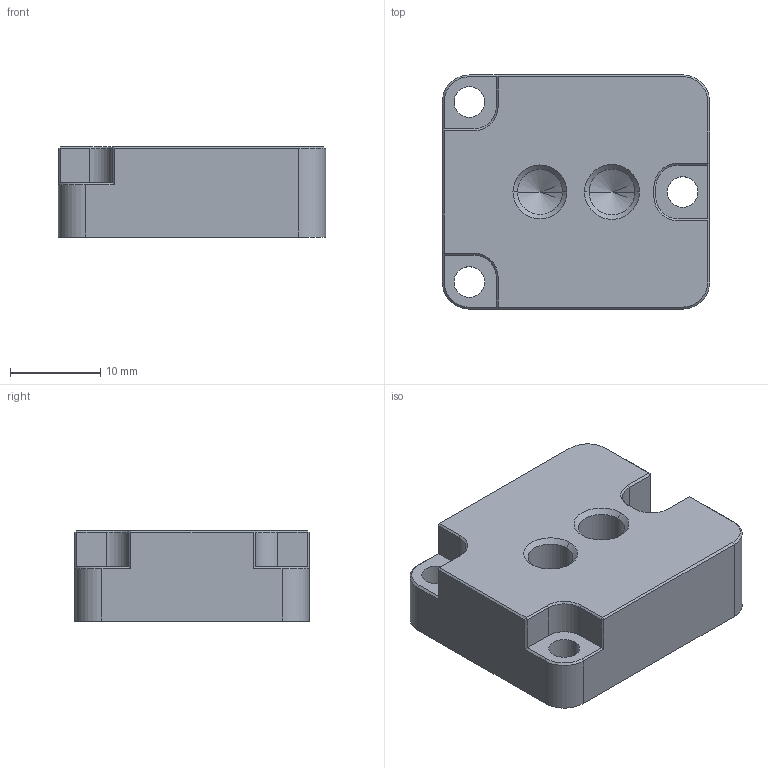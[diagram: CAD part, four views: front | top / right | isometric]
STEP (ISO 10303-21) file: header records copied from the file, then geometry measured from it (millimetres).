
FILE_DESCRIPTION (( 'STEP AP214' ), '1' );
FILE_NAME ('tbn1_Mako-U_Tripod.STEP', '2015-08-10T11:42:50', ( 'dwoebber' ), ( '' ), 'SwSTEP 2.0', 'SolidWorks 2014', '' );
FILE_SCHEMA (( 'AUTOMOTIVE_DESIGN' ));
Length unit declared in the file: millimetre
Products named in the file (1): tbn1_Mako-U_Tripod
Bounding box: 29.7 x 26 x 10 mm (x, y, z)
Volume: 6688.9 mm3; surface area: 3000.6 mm2
Topology: 1 solids, 1 shells, 79 faces, 183 edges, 104 vertices
Faces by surface type: plane 45, cylinder 18, cone 16
Entity records: 2243 total; most frequent: DIRECTION 387, CARTESIAN_POINT 363, ORIENTED_EDGE 358, EDGE_CURVE 179, VECTOR 131, LINE 131, AXIS2_PLACEMENT_3D 128, VERTEX_POINT 104
